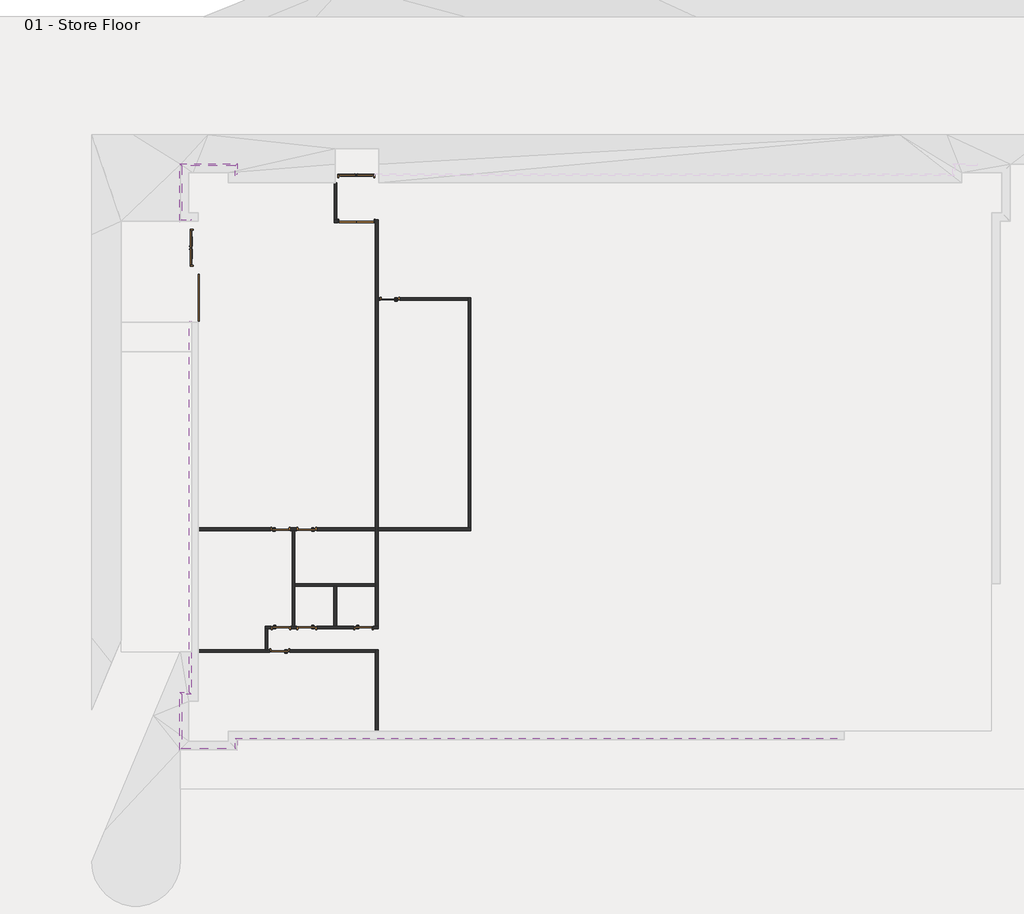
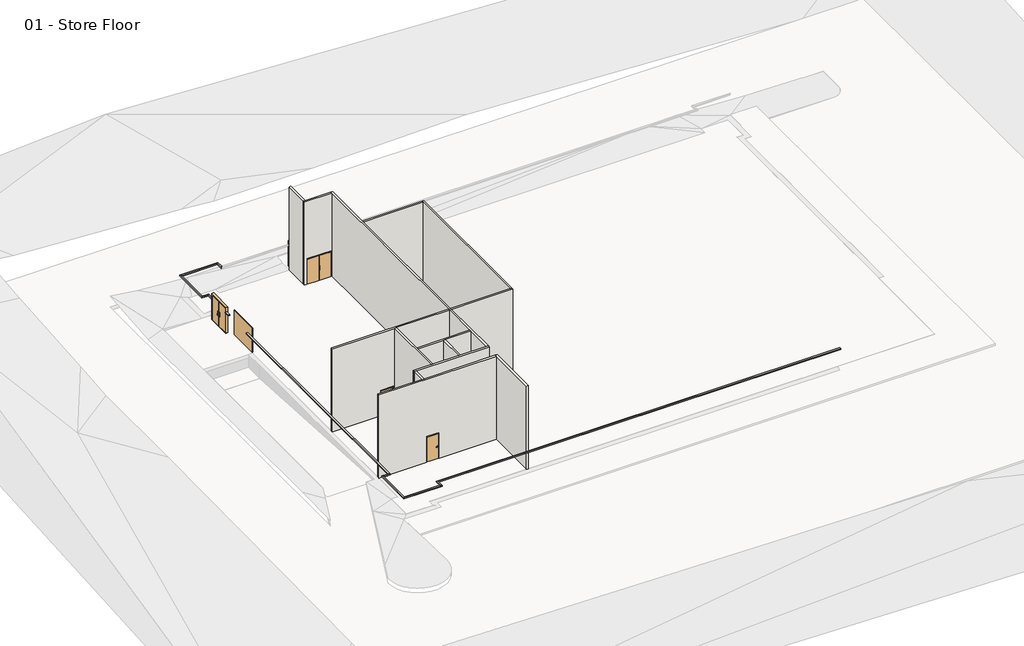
# One storey, part 1 of 2: 13 walls, 11 doors, 10 proxies.
"""IFC4 building model written with IfcOpenShell, lengths in millimetres."""

from ifc_helpers import new_model, si_unit, frame, origin, origin_with_axes, place, context, project, spatial, polyline, outline, extrude, faceted_brep, transform, mapped, element, save
from components import m_door_exterior_double_1800_x_2000mm_23919ed1, m_door_exterior_double_1800_x_2000mm_bb9cb4d2, m_door_overhead_sectional_2400_x_2000mm_2e2bb5a0, m_door_passage_double_flush_dbl_acting_1800_x_2000mm_08d7c2af, m_door_passage_single_flush_900_x_2000mm_14e2eb9a, m_door_passage_single_flush_900_x_2000mm_70bd3cdf

model = new_model("IFC4")

# Units and contexts
model_context = context("Model", 3, world=origin())
ifc_project = project(units=[si_unit("LENGTHUNIT", "METRE", prefix="MILLI")], contexts=[model_context])

# Site, building, storey
site = spatial("IfcSite", under=ifc_project)
building = spatial("IfcBuilding", under=site)
storey = spatial("IfcBuildingStorey", under=building, Name="01 - Store Floor", Elevation=0.0)

# Proxies
placement = place(None, origin())
element("IfcBuildingElementProxy", 1, Name="Reveals", at=placement, inside=storey, context=model_context, shape_type="SweptSolid", body=[
    extrude(outline(polyline([(10855.5272279, -14331.9313057), (10855.5272279, -14434.4313057), (-20003.9727721, -14434.4313057), (-20106.4727721, -14331.9313057), (10855.5272279, -14331.9313057)])), frame((0.0, 0.0, 1675.0), z_axis=(0.0, 0.0, 1.0), x_axis=(1.0, 0.0, 0.0)), (0.0, 0.0, 1.0), 75.0),
])
element("IfcBuildingElementProxy", 2, Name="Reveals", at=placement, inside=storey, context=model_context, shape_type="SweptSolid", body=[
    extrude(outline(polyline([(-20106.4727721, -14331.9313057), (-20003.9727721, -14434.4313057), (-20003.9727721, -14934.2313057), (-20106.4727721, -14831.7313057), (-20106.4727721, -14331.9313057)])), frame((0.0, 0.0, 1675.0), z_axis=(0.0, 0.0, 1.0), x_axis=(1.0, 0.0, 0.0)), (0.0, 0.0, 1.0), 75.0),
])
element("IfcBuildingElementProxy", 3, Name="Reveals", at=placement, inside=storey, context=model_context, shape_type="SweptSolid", body=[
    extrude(outline(polyline([(-20106.4727721, -14831.7313057), (-20003.9727721, -14934.2313057), (-22946.9727721, -14934.2313057), (-22844.4727721, -14831.7313057), (-20106.4727721, -14831.7313057)])), frame((0.0, 0.0, 1675.0), z_axis=(0.0, 0.0, 1.0), x_axis=(1.0, 0.0, 0.0)), (0.0, 0.0, 1.0), 75.0),
])
element("IfcBuildingElementProxy", 4, Name="Reveals", at=placement, inside=storey, context=model_context, shape_type="SweptSolid", body=[
    extrude(outline(polyline([(-22844.4727721, -14831.7313057), (-22946.9727721, -14934.2313057), (-22946.9727721, -11991.2313057), (-22844.4727721, -12093.7313057), (-22844.4727721, -14831.7313057)])), frame((0.0, 0.0, 1675.0), z_axis=(0.0, 0.0, 1.0), x_axis=(1.0, 0.0, 0.0)), (0.0, 0.0, 1.0), 75.0),
])
element("IfcBuildingElementProxy", 5, Name="Reveals", at=placement, inside=storey, context=model_context, shape_type="SweptSolid", body=[
    extrude(outline(polyline([(-22844.4727721, -12093.7313057), (-22946.9727721, -11991.2313057), (-22446.9727721, -11991.2313057), (-22344.4727721, -12093.7313057), (-22844.4727721, -12093.7313057)])), frame((0.0, 0.0, 1675.0), z_axis=(0.0, 0.0, 1.0), x_axis=(1.0, 0.0, 0.0)), (0.0, 0.0, 1.0), 75.0),
])
element("IfcBuildingElementProxy", 6, Name="Reveals", at=placement, inside=storey, context=model_context, shape_type="SweptSolid", body=[
    extrude(outline(polyline([(-22344.4727721, 11555.0686943), (-22446.9727721, 11555.0686943), (-22446.9727721, 11927.5686943), (-22344.4727721, 12030.0686943), (-22344.4727721, 11555.0686943)])), frame((0.0, 0.0, 1675.0), z_axis=(0.0, 0.0, 1.0), x_axis=(1.0, 0.0, 0.0)), (0.0, 0.0, 1.0), 75.0),
    extrude(outline(polyline([(-22344.4727721, 9255.0686943), (-22446.9727721, 9255.0686943), (-22446.9727721, 9655.0686943), (-22344.4727721, 9655.0686943), (-22344.4727721, 9255.0686943)])), frame((0.0, 0.0, 1675.0), z_axis=(0.0, 0.0, 1.0), x_axis=(1.0, 0.0, 0.0)), (0.0, 0.0, 1.0), 75.0),
    extrude(outline(polyline([(-22344.4727721, -12093.7313057), (-22446.9727721, -11991.2313057), (-22446.9727721, 6855.0686943), (-22344.4727721, 6855.0686943), (-22344.4727721, -12093.7313057)])), frame((0.0, 0.0, 1675.0), z_axis=(0.0, 0.0, 1.0), x_axis=(1.0, 0.0, 0.0)), (0.0, 0.0, 1.0), 75.0),
])
element("IfcBuildingElementProxy", 7, Name="Reveals", at=placement, inside=storey, context=model_context, shape_type="SweptSolid", body=[
    extrude(outline(polyline([(-22344.4727721, 12030.0686943), (-22446.9727721, 11927.5686943), (-22946.9727721, 11927.5686943), (-22844.4727721, 12030.0686943), (-22344.4727721, 12030.0686943)])), frame((0.0, 0.0, 1675.0), z_axis=(0.0, 0.0, 1.0), x_axis=(1.0, 0.0, 0.0)), (0.0, 0.0, 1.0), 75.0),
])
element("IfcBuildingElementProxy", 8, Name="Reveals", at=placement, inside=storey, context=model_context, shape_type="SweptSolid", body=[
    extrude(outline(polyline([(-22844.4727721, 12030.0686943), (-22946.9727721, 11927.5686943), (-22946.9727721, 14870.5686943), (-22844.4727721, 14768.0686943), (-22844.4727721, 12030.0686943)])), frame((0.0, 0.0, 1675.0), z_axis=(0.0, 0.0, 1.0), x_axis=(1.0, 0.0, 0.0)), (0.0, 0.0, 1.0), 75.0),
])
element("IfcBuildingElementProxy", 9, Name="Reveals", at=placement, inside=storey, context=model_context, shape_type="SweptSolid", body=[
    extrude(outline(polyline([(-22844.4727721, 14768.0686943), (-22946.9727721, 14870.5686943), (-20003.9727721, 14870.5686943), (-20106.4727721, 14768.0686943), (-22844.4727721, 14768.0686943)])), frame((0.0, 0.0, 1675.0), z_axis=(0.0, 0.0, 1.0), x_axis=(1.0, 0.0, 0.0)), (0.0, 0.0, 1.0), 75.0),
])
element("IfcBuildingElementProxy", 10, Name="Reveals", at=placement, inside=storey, context=model_context, shape_type="SweptSolid", body=[
    extrude(outline(polyline([(-20106.4727721, 14768.0686943), (-20003.9727721, 14870.5686943), (-20003.9727721, 14370.5686943), (-20106.4727721, 14268.0686943), (-20106.4727721, 14768.0686943)])), frame((0.0, 0.0, 1675.0), z_axis=(0.0, 0.0, 1.0), x_axis=(1.0, 0.0, 0.0)), (0.0, 0.0, 1.0), 75.0),
])

# Doors
m_door_exterior_double_1800_x_2000mm_shape = m_door_exterior_double_1800_x_2000mm_23919ed1(model_context)
element("IfcDoor", 11, ObjectType="M_Door-Exterior-Double : 1800 x 2000mm", at=placement, inside=storey, context=model_context, shape_type="MappedRepresentation", body=[
    mapped(m_door_exterior_double_1800_x_2000mm_shape, transform((-13962.4227721, 14122.2186943, 0.0), x_axis=(-1.0, 0.0, 0.0), y_axis=(0.0, -1.0, 0.0), z_axis=(0.0, 0.0, 1.0))),
])
m_door_exterior_double_1800_x_2000mm_2_shape = m_door_exterior_double_1800_x_2000mm_bb9cb4d2(model_context)
element("IfcDoor", 12, ObjectType="M_Door-Exterior-Double : 1800 x 2000mm", at=placement, inside=storey, context=model_context, shape_type="MappedRepresentation", body=[
    mapped(m_door_exterior_double_1800_x_2000mm_2_shape, transform((-22198.6227721, 10605.0686943, 0.0), x_axis=(0.0, 1.0, 0.0), y_axis=(-1.0, 0.0, 0.0), z_axis=(0.0, 0.0, 1.0))),
])
m_door_overhead_sectional_2400_x_2000mm_shape = m_door_overhead_sectional_2400_x_2000mm_2e2bb5a0(model_context)
element("IfcDoor", 13, ObjectType="M_Door-Overhead-Sectional : 2400 x 2000mm", at=placement, inside=storey, context=model_context, shape_type="MappedRepresentation", body=[
    mapped(m_door_overhead_sectional_2400_x_2000mm_shape, transform((-22204.9727721, 8055.0686943, 0.0), x_axis=(0.0, 1.0, 0.0), y_axis=(-1.0, 0.0, 0.0), z_axis=(0.0, 0.0, 1.0))),
])
m_door_passage_double_flush_dbl_acting_1800_x_2000mm_shape = m_door_passage_double_flush_dbl_acting_1800_x_2000mm_08d7c2af(model_context)
element("IfcDoor", 14, ObjectType="M_Door-Passage-Double-Flush-Dbl_Acting : 1800 x 2000mm", at=placement, inside=storey, context=model_context, shape_type="MappedRepresentation", body=[
    mapped(m_door_passage_double_flush_dbl_acting_1800_x_2000mm_shape, transform((-13959.9477721, 11961.4186943, 0.0), x_axis=(-1.0, 0.0, 0.0), y_axis=(0.0, -1.0, 0.0), z_axis=(0.0, 0.0, 1.0))),
])
m_door_passage_single_flush_900_x_2000mm_shape = m_door_passage_single_flush_900_x_2000mm_14e2eb9a(model_context)
element("IfcDoor", 15, ObjectType="M_Door-Passage-Single-Flush : 900 x 2000mm", at=placement, inside=storey, context=model_context, shape_type="MappedRepresentation", body=[
    mapped(m_door_passage_single_flush_900_x_2000mm_shape, transform((-17819.4727721, -3700.5813057, 0.0), x_axis=(1.0, 0.0, 0.0), y_axis=(0.0, 1.0, 0.0), z_axis=(0.0, 0.0, 1.0))),
])
element("IfcDoor", 16, ObjectType="M_Door-Passage-Single-Flush : 900 x 2000mm", at=placement, inside=storey, context=model_context, shape_type="MappedRepresentation", body=[
    mapped(m_door_passage_single_flush_900_x_2000mm_shape, transform((-16480.9727721, -8713.2813057, 0.0), x_axis=(-1.0, 0.0, 0.0), y_axis=(0.0, -1.0, 0.0), z_axis=(0.0, 0.0, 1.0))),
])
m_door_passage_single_flush_900_x_2000mm_2_shape = m_door_passage_single_flush_900_x_2000mm_70bd3cdf(model_context)
element("IfcDoor", 17, ObjectType="M_Door-Passage-Single-Flush : 900 x 2000mm", at=placement, inside=storey, context=model_context, shape_type="MappedRepresentation", body=[
    mapped(m_door_passage_single_flush_900_x_2000mm_2_shape, transform((-16480.9727721, -3700.5813057, 0.0), x_axis=(-1.0, 0.0, 0.0), y_axis=(0.0, -1.0, 0.0), z_axis=(0.0, 0.0, 1.0))),
])
element("IfcDoor", 18, ObjectType="M_Door-Passage-Single-Flush : 900 x 2000mm", at=placement, inside=storey, context=model_context, shape_type="MappedRepresentation", body=[
    mapped(m_door_passage_single_flush_900_x_2000mm_2_shape, transform((-13588.7227721, -8713.2813057, 0.0), x_axis=(1.0, 0.0, 0.0), y_axis=(0.0, 1.0, 0.0), z_axis=(0.0, 0.0, 1.0))),
])
element("IfcDoor", 19, ObjectType="M_Door-Passage-Single-Flush : 900 x 2000mm", at=placement, inside=storey, context=model_context, shape_type="MappedRepresentation", body=[
    mapped(m_door_passage_single_flush_900_x_2000mm_2_shape, transform((-17795.5977721, -8713.2813057, 0.0), x_axis=(1.0, 0.0, 0.0), y_axis=(0.0, 1.0, 0.0), z_axis=(0.0, 0.0, 1.0))),
])
element("IfcDoor", 20, ObjectType="M_Door-Passage-Single-Flush : 900 x 2000mm", at=placement, inside=storey, context=model_context, shape_type="MappedRepresentation", body=[
    mapped(m_door_passage_single_flush_900_x_2000mm_2_shape, transform((-17850.2227721, -9889.0813057, 0.0), x_axis=(-1.0, 0.0, 0.0), y_axis=(0.0, -1.0, 0.0), z_axis=(0.0, 0.0, 1.0))),
])
element("IfcDoor", 21, ObjectType="M_Door-Passage-Single-Flush : 900 x 2000mm", at=placement, inside=storey, context=model_context, shape_type="MappedRepresentation", body=[
    mapped(m_door_passage_single_flush_900_x_2000mm_2_shape, transform((-12250.2227721, 7999.4186943, 0.0), x_axis=(-1.0, 0.0, 0.0), y_axis=(0.0, -1.0, 0.0), z_axis=(0.0, 0.0, 1.0))),
])

# Walls
element("IfcWall", 22, ObjectType="Interior - 138mm Partition (1-hr)", at=placement, inside=storey, context=model_context, shape_type="Brep", body=[
    faceted_brep([(-12850.2227721, -13977.9313057, 0.0), (-12850.2227721, -9826.1813057, 0.0), (-12850.2227721, -9826.1813057, 6750.0), (-12850.2227721, -13977.9313057, 6750.0), (-12988.7227721, -13977.9313057, 0.0), (-12988.7227721, -13977.9313057, 6750.0), (-12988.7227721, -9964.6813057, 6750.0), (-12988.7227721, -9826.1813057, 6750.0), (-12988.7227721, -9826.1813057, 0.0), (-12988.7227721, -9964.6813057, 0.0)], [[[0, 1, 2, 3]], [[4, 5, 6, 7, 8, 9]], [[1, 0, 4, 9, 8]], [[0, 3, 5, 4]], [[2, 1, 8, 7]], [[3, 2, 7, 6, 5]]]),
])
element("IfcWall", 23, ObjectType="Interior - 138mm Partition (1-hr)", at=placement, inside=storey, context=model_context, shape_type="Brep", body=[
    faceted_brep([(-12988.7227721, 12024.3186943, 6750.0), (-12988.7227721, 12024.3186943, 0.0), (-13009.9477721, 12024.3186943, 0.0), (-13009.9477721, 12024.3186943, 2100.0), (-14909.9477721, 12024.3186943, 2100.0), (-14909.9477721, 12024.3186943, 0.0), (-14950.2227721, 12024.3186943, 0.0), (-15088.7227721, 12024.3186943, 0.0), (-15088.7227721, 12024.3186943, 6750.0), (-14950.2227721, 12024.3186943, 6750.0), (-12988.7227721, 11885.8186943, 0.0), (-12988.7227721, 11885.8186943, 6750.0), (-15088.7227721, 11885.8186943, 6750.0), (-15088.7227721, 11885.8186943, 0.0), (-14909.9477721, 11885.8186943, 0.0), (-14909.9477721, 11885.8186943, 2100.0), (-13009.9477721, 11885.8186943, 2100.0), (-13009.9477721, 11885.8186943, 0.0)], [[[0, 1, 2, 3, 4, 5, 6, 7, 8, 9]], [[10, 11, 12, 13, 14, 15, 16, 17]], [[1, 10, 17, 2]], [[13, 7, 6, 5, 14]], [[1, 0, 11, 10]], [[8, 7, 13, 12]], [[0, 9, 8, 12, 11]], [[4, 15, 14, 5]], [[15, 4, 3, 16]], [[16, 3, 2, 17]]]),
])
element("IfcWall", 24, ObjectType="Interior - 138mm Partition (1-hr)", at=placement, inside=storey, context=model_context, shape_type="SweptSolid", body=[
    extrude(outline(polyline([(-14950.2227721, 13914.0686943), (-14950.2227721, 12024.3186943), (-15088.7227721, 12024.3186943), (-15088.7227721, 13914.0686943), (-14950.2227721, 13914.0686943)])), origin_with_axes(), (0.0, 0.0, 1.0), 6750.0),
])
element("IfcWall", 25, ObjectType="Interior - 138mm Partition (1-hr)", at=placement, inside=storey, context=model_context, shape_type="Brep", body=[
    faceted_brep([(-18588.7227721, -8637.6813057, 0.0), (-18588.7227721, -8637.6813057, 6750.0), (-17219.4727721, -8637.6813057, 6750.0), (-17080.9727721, -8637.6813057, 6750.0), (-15104.0977721, -8637.6813057, 6750.0), (-14965.5977721, -8637.6813057, 6750.0), (-12988.7227721, -8637.6813057, 6750.0), (-12850.2227721, -8637.6813057, 6750.0), (-12850.2227721, -8637.6813057, 0.0), (-12988.7227721, -8637.6813057, 0.0), (-13088.7227721, -8637.6813057, 0.0), (-13088.7227721, -8637.6813057, 2100.0), (-14088.7227721, -8637.6813057, 2100.0), (-14088.7227721, -8637.6813057, 0.0), (-14965.5977721, -8637.6813057, 0.0), (-15104.0977721, -8637.6813057, 0.0), (-15980.9727721, -8637.6813057, 0.0), (-15980.9727721, -8637.6813057, 2100.0), (-16980.9727721, -8637.6813057, 2100.0), (-16980.9727721, -8637.6813057, 0.0), (-17080.9727721, -8637.6813057, 0.0), (-17219.4727721, -8637.6813057, 0.0), (-17295.5977721, -8637.6813057, 0.0), (-17295.5977721, -8637.6813057, 2100.0), (-18295.5977721, -8637.6813057, 2100.0), (-18295.5977721, -8637.6813057, 0.0), (-18588.7227721, -8776.1813057, 6750.0), (-18588.7227721, -8776.1813057, 0.0), (-18450.2227721, -8776.1813057, 0.0), (-18295.5977721, -8776.1813057, 0.0), (-18295.5977721, -8776.1813057, 2100.0), (-17295.5977721, -8776.1813057, 2100.0), (-17295.5977721, -8776.1813057, 0.0), (-16980.9727721, -8776.1813057, 0.0), (-16980.9727721, -8776.1813057, 2100.0), (-15980.9727721, -8776.1813057, 2100.0), (-15980.9727721, -8776.1813057, 0.0), (-14088.7227721, -8776.1813057, 0.0), (-14088.7227721, -8776.1813057, 2100.0), (-13088.7227721, -8776.1813057, 2100.0), (-13088.7227721, -8776.1813057, 0.0), (-12850.2227721, -8776.1813057, 0.0), (-12850.2227721, -8776.1813057, 6750.0), (-18450.2227721, -8776.1813057, 6750.0)], [[[0, 1, 2, 3, 4, 5, 6, 7, 8, 9, 10, 11, 12, 13, 14, 15, 16, 17, 18, 19, 20, 21, 22, 23, 24, 25]], [[26, 27, 28, 29, 30, 31, 32, 33, 34, 35, 36, 37, 38, 39, 40, 41, 42, 43]], [[27, 0, 25, 29, 28]], [[8, 41, 40, 10, 9]], [[19, 33, 32, 22, 21, 20]], [[36, 16, 15, 14, 13, 37]], [[1, 0, 27, 26]], [[8, 7, 42, 41]], [[7, 6, 5, 4, 3, 2, 1, 26, 43, 42]], [[18, 34, 33, 19]], [[34, 18, 17, 35]], [[35, 17, 16, 36]], [[39, 11, 10, 40]], [[11, 39, 38, 12]], [[12, 38, 37, 13]], [[31, 23, 22, 32]], [[23, 31, 30, 24]], [[24, 30, 29, 25]]]),
])
element("IfcWall", 26, ObjectType="Interior - 138mm Partition (1-hr)", at=placement, inside=storey, context=model_context, shape_type="SweptSolid", body=[
    extrude(outline(polyline([(-18588.7227721, -9826.1813057), (-18588.7227721, -8776.1813057), (-18450.2227721, -8776.1813057), (-18450.2227721, -9826.1813057), (-18588.7227721, -9826.1813057)])), origin_with_axes(), (0.0, 0.0, 1.0), 6750.0),
])
element("IfcWall", 27, ObjectType="Interior - 138mm Partition (1-hr)", at=placement, inside=storey, context=model_context, shape_type="Brep", body=[
    faceted_brep([(-21990.4727721, -9964.6813057, 6750.0), (-21990.4727721, -9964.6813057, 0.0), (-18350.2227721, -9964.6813057, 0.0), (-18350.2227721, -9964.6813057, 2100.0), (-17350.2227721, -9964.6813057, 2100.0), (-17350.2227721, -9964.6813057, 0.0), (-12988.7227721, -9964.6813057, 0.0), (-12988.7227721, -9964.6813057, 6750.0), (-21990.4727721, -9826.1813057, 0.0), (-21990.4727721, -9826.1813057, 6750.0), (-18588.7227721, -9826.1813057, 6750.0), (-18450.2227721, -9826.1813057, 6750.0), (-12988.7227721, -9826.1813057, 6750.0), (-12988.7227721, -9826.1813057, 0.0), (-17350.2227721, -9826.1813057, 0.0), (-17350.2227721, -9826.1813057, 2100.0), (-18350.2227721, -9826.1813057, 2100.0), (-18350.2227721, -9826.1813057, 0.0), (-18450.2227721, -9826.1813057, 0.0), (-18588.7227721, -9826.1813057, 0.0)], [[[0, 1, 2, 3, 4, 5, 6, 7]], [[8, 9, 10, 11, 12, 13, 14, 15, 16, 17, 18, 19]], [[1, 8, 19, 18, 17, 2]], [[13, 6, 5, 14]], [[1, 0, 9, 8]], [[7, 6, 13, 12]], [[0, 7, 12, 11, 10, 9]], [[16, 3, 2, 17]], [[3, 16, 15, 4]], [[4, 15, 14, 5]]]),
])
element("IfcWall", 28, ObjectType="Interior - 138mm Partition (1-hr)", at=placement, inside=storey, context=model_context, shape_type="Brep", body=[
    faceted_brep([(-17080.9727721, -8637.6813057, 0.0), (-17080.9727721, -6606.9313057, 0.0), (-17080.9727721, -6468.4313057, 0.0), (-17080.9727721, -3776.1813057, 0.0), (-17080.9727721, -3776.1813057, 6750.0), (-17080.9727721, -6468.4313057, 6750.0), (-17080.9727721, -6606.9313057, 6750.0), (-17080.9727721, -8637.6813057, 6750.0), (-17219.4727721, -8637.6813057, 0.0), (-17219.4727721, -8637.6813057, 6750.0), (-17219.4727721, -3776.1813057, 6750.0), (-17219.4727721, -3776.1813057, 0.0)], [[[0, 1, 2, 3, 4, 5, 6, 7]], [[8, 9, 10, 11]], [[3, 2, 1, 0, 8, 11]], [[0, 7, 9, 8]], [[4, 3, 11, 10]], [[7, 6, 5, 4, 10, 9]]]),
])
element("IfcWall", 29, ObjectType="Interior - 138mm Partition (1-hr)", at=placement, inside=storey, context=model_context, shape_type="Brep", body=[
    faceted_brep([(-21990.4727721, -3637.6813057, 0.0), (-21990.4727721, -3637.6813057, 6750.0), (-12988.7227721, -3637.6813057, 6750.0), (-12988.7227721, -3637.6813057, 0.0), (-15980.9727721, -3637.6813057, 0.0), (-15980.9727721, -3637.6813057, 2100.0), (-16980.9727721, -3637.6813057, 2100.0), (-16980.9727721, -3637.6813057, 0.0), (-17319.4727721, -3637.6813057, 0.0), (-17319.4727721, -3637.6813057, 2100.0), (-18319.4727721, -3637.6813057, 2100.0), (-18319.4727721, -3637.6813057, 0.0), (-21990.4727721, -3776.1813057, 6750.0), (-21990.4727721, -3776.1813057, 0.0), (-18319.4727721, -3776.1813057, 0.0), (-18319.4727721, -3776.1813057, 2100.0), (-17319.4727721, -3776.1813057, 2100.0), (-17319.4727721, -3776.1813057, 0.0), (-17219.4727721, -3776.1813057, 0.0), (-17080.9727721, -3776.1813057, 0.0), (-16980.9727721, -3776.1813057, 0.0), (-16980.9727721, -3776.1813057, 2100.0), (-15980.9727721, -3776.1813057, 2100.0), (-15980.9727721, -3776.1813057, 0.0), (-12988.7227721, -3776.1813057, 0.0), (-12988.7227721, -3776.1813057, 6750.0), (-17080.9727721, -3776.1813057, 6750.0), (-17219.4727721, -3776.1813057, 6750.0)], [[[0, 1, 2, 3, 4, 5, 6, 7, 8, 9, 10, 11]], [[12, 13, 14, 15, 16, 17, 18, 19, 20, 21, 22, 23, 24, 25, 26, 27]], [[13, 0, 11, 14]], [[17, 8, 7, 20, 19, 18]], [[23, 4, 3, 24]], [[1, 0, 13, 12]], [[3, 2, 25, 24]], [[1, 12, 27, 26, 25, 2]], [[16, 9, 8, 17]], [[9, 16, 15, 10]], [[10, 15, 14, 11]], [[6, 21, 20, 7]], [[21, 6, 5, 22]], [[22, 5, 4, 23]]]),
    faceted_brep([(-8135.7227721, -3637.6813057, 6750.0), (-8135.7227721, -3637.6813057, 0.0), (-8274.2227721, -3637.6813057, 0.0), (-12850.2227721, -3637.6813057, 0.0), (-12850.2227721, -3637.6813057, 6750.0), (-8274.2227721, -3637.6813057, 6750.0), (-8135.7227721, -3776.1813057, 0.0), (-8135.7227721, -3776.1813057, 6750.0), (-12850.2227721, -3776.1813057, 6750.0), (-12850.2227721, -3776.1813057, 0.0)], [[[0, 1, 2, 3, 4, 5]], [[6, 7, 8, 9]], [[1, 6, 9, 3, 2]], [[1, 0, 7, 6]], [[4, 3, 9, 8]], [[7, 0, 5, 4, 8]]]),
])
element("IfcWall", 30, ObjectType="Interior - 138mm Partition (1-hr)", at=placement, inside=storey, context=model_context, shape_type="Brep", body=[
    faceted_brep([(-8135.7227721, -3637.6813057, 0.0), (-8135.7227721, 8062.3186943, 0.0), (-8135.7227721, 8062.3186943, 6750.0), (-8135.7227721, -3637.6813057, 6750.0), (-8274.2227721, -3637.6813057, 0.0), (-8274.2227721, -3637.6813057, 6750.0), (-8274.2227721, 7923.8186943, 6750.0), (-8274.2227721, 8062.3186943, 6750.0), (-8274.2227721, 8062.3186943, 0.0), (-8274.2227721, 7923.8186943, 0.0)], [[[0, 1, 2, 3]], [[4, 5, 6, 7, 8, 9]], [[1, 0, 4, 9, 8]], [[0, 3, 5, 4]], [[2, 1, 8, 7]], [[3, 2, 7, 6, 5]]]),
])
element("IfcWall", 31, ObjectType="Interior - 138mm Partition (1-hr)", at=placement, inside=storey, context=model_context, shape_type="SweptSolid", body=[
    extrude(outline(polyline([(0.0, -8274.2227721), (6750.0, -8274.2227721), (6750.0, -12850.2227721), (0.0, -12850.2227721), (0.0, -12750.2227721), (2100.0, -12750.2227721), (2100.0, -11750.2227721), (0.0, -11750.2227721), (0.0, -8274.2227721)])), frame((0.0, 7923.8186943, 0.0), z_axis=(0.0, 1.0, 0.0), x_axis=(0.0, 0.0, 1.0)), (0.0, 0.0, 1.0), 138.5),
])
element("IfcWall", 32, ObjectType="Interior - 138mm Partition (1-hr)", at=placement, inside=storey, context=model_context, shape_type="Brep", body=[
    faceted_brep([(-12988.7227721, -6468.4313057, 0.0), (-17080.9727721, -6468.4313057, 0.0), (-17080.9727721, -6468.4313057, 6750.0), (-12988.7227721, -6468.4313057, 6750.0), (-12988.7227721, -6606.9313057, 0.0), (-12988.7227721, -6606.9313057, 6750.0), (-14965.5977721, -6606.9313057, 6750.0), (-15104.0977721, -6606.9313057, 6750.0), (-17080.9727721, -6606.9313057, 6750.0), (-17080.9727721, -6606.9313057, 0.0), (-15104.0977721, -6606.9313057, 0.0), (-14965.5977721, -6606.9313057, 0.0)], [[[0, 1, 2, 3]], [[4, 5, 6, 7, 8, 9, 10, 11]], [[1, 0, 4, 11, 10, 9]], [[0, 3, 5, 4]], [[2, 1, 9, 8]], [[3, 2, 8, 7, 6, 5]]]),
])
element("IfcWall", 33, ObjectType="Interior - 138mm Partition (1-hr)", at=placement, inside=storey, context=model_context, shape_type="SweptSolid", body=[
    extrude(outline(polyline([(-15104.0977721, -8637.6813057), (-15104.0977721, -6606.9313057), (-14965.5977721, -6606.9313057), (-14965.5977721, -8637.6813057), (-15104.0977721, -8637.6813057)])), origin_with_axes(), (0.0, 0.0, 1.0), 6750.0),
])
element("IfcWall", 34, ObjectType="Interior - 138mm Partition (1-hr)", at=placement, inside=storey, context=model_context, shape_type="Brep", body=[
    faceted_brep([(-12850.2227721, -8637.6813057, 0.0), (-12850.2227721, -3776.1813057, 0.0), (-12850.2227721, -3637.6813057, 0.0), (-12850.2227721, 7923.8186943, 0.0), (-12850.2227721, 8062.3186943, 0.0), (-12850.2227721, 12024.3186943, 0.0), (-12850.2227721, 12024.3186943, 6750.0), (-12850.2227721, 8062.3186943, 6750.0), (-12850.2227721, 7923.8186943, 6750.0), (-12850.2227721, -3637.6813057, 6750.0), (-12850.2227721, -3776.1813057, 6750.0), (-12850.2227721, -8637.6813057, 6750.0), (-12988.7227721, -8637.6813057, 0.0), (-12988.7227721, -8637.6813057, 6750.0), (-12988.7227721, -6606.9313057, 6750.0), (-12988.7227721, -6468.4313057, 6750.0), (-12988.7227721, -3776.1813057, 6750.0), (-12988.7227721, -3637.6813057, 6750.0), (-12988.7227721, 11885.8186943, 6750.0), (-12988.7227721, 12024.3186943, 6750.0), (-12988.7227721, 12024.3186943, 0.0), (-12988.7227721, 11885.8186943, 0.0), (-12988.7227721, -3637.6813057, 0.0), (-12988.7227721, -3776.1813057, 0.0), (-12988.7227721, -6468.4313057, 0.0), (-12988.7227721, -6606.9313057, 0.0)], [[[0, 1, 2, 3, 4, 5, 6, 7, 8, 9, 10, 11]], [[12, 13, 14, 15, 16, 17, 18, 19, 20, 21, 22, 23, 24, 25]], [[5, 4, 3, 2, 1, 0, 12, 25, 24, 23, 22, 21, 20]], [[6, 5, 20, 19]], [[0, 11, 13, 12]], [[11, 10, 9, 8, 7, 6, 19, 18, 17, 16, 15, 14, 13]]]),
])

save(model, "model.ifc")
